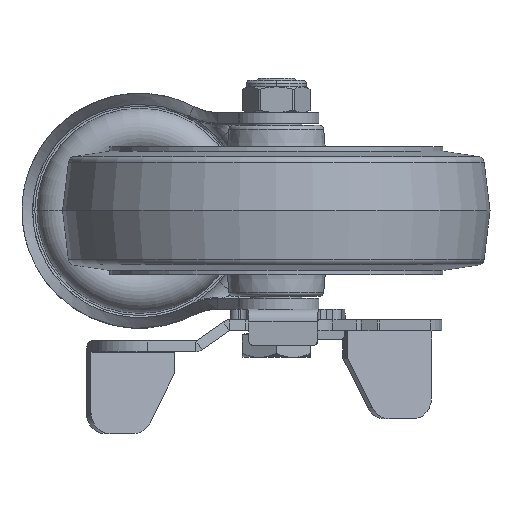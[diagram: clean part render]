
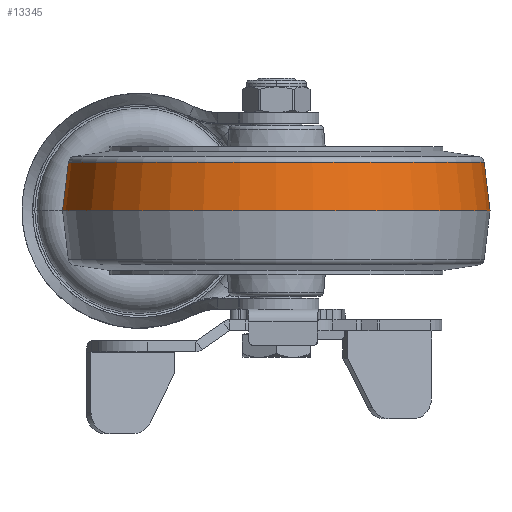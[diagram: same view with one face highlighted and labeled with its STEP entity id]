
A CAD part, front view. The second image highlights one B-rep face of the part: STEP entity #13345.
In plain terms, the highlighted conical face has half-angle 6.843 degrees and reference radius 49.318 mm.
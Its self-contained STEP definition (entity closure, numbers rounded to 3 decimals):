
#12990=CARTESIAN_POINT('',(-11.365,0.,0.));
#12991=DIRECTION('',(-1.,0.,0.));
#12992=DIRECTION('',(0.,1.,0.));
#12993=AXIS2_PLACEMENT_3D('',#12990,#12991,#12992);
#13005=DIRECTION('',(-0.993,-0.119,0.));
#13006=VECTOR('',#13005,11.446);
#13007=CARTESIAN_POINT('',(0.,50.,0.));
#13008=LINE('',#13007,#13006);
#13009=DIRECTION('',(-0.993,0.119,0.));
#13010=VECTOR('',#13009,11.446);
#13011=CARTESIAN_POINT('',(0.,-50.,0.));
#13012=LINE('',#13011,#13010);
#13013=CARTESIAN_POINT('',(0.,0.,0.));
#13014=DIRECTION('',(-1.,0.,0.));
#13015=DIRECTION('',(0.,1.,0.));
#13016=AXIS2_PLACEMENT_3D('',#13013,#13014,#13015);
#13018=CARTESIAN_POINT('',(0.,50.,0.));
#13019=CARTESIAN_POINT('',(-11.365,48.636,0.));
#13020=VERTEX_POINT('',#13018);
#13021=VERTEX_POINT('',#13019);
#13040=CARTESIAN_POINT('',(0.,-50.,0.));
#13041=CARTESIAN_POINT('',(-11.365,-48.636,0.));
#13042=VERTEX_POINT('',#13040);
#13043=VERTEX_POINT('',#13041);
#13334=CARTESIAN_POINT('',(-5.682,0.,0.));
#13335=DIRECTION('',(1.,0.,0.));
#13336=DIRECTION('',(0.,-1.,0.));
#13337=AXIS2_PLACEMENT_3D('',#13334,#13335,#13336);
#13338=CONICAL_SURFACE('',#13337,49.318,6.843);
#13339=ORIENTED_EDGE('',*,*,#13325,.T.);
#13340=ORIENTED_EDGE('',*,*,#13302,.T.);
#13341=ORIENTED_EDGE('',*,*,#13328,.F.);
#13342=ORIENTED_EDGE('',*,*,#13069,.F.);
#13343=EDGE_LOOP('',(#13339,#13340,#13341,#13342));
#13344=FACE_OUTER_BOUND('',#13343,.F.);
#12994=CIRCLE('',#12993,48.636);
#13017=CIRCLE('',#13016,50.);
#13069=EDGE_CURVE('',#13020,#13042,#13017,.T.);
#13302=EDGE_CURVE('',#13021,#13043,#12994,.T.);
#13325=EDGE_CURVE('',#13020,#13021,#13008,.T.);
#13328=EDGE_CURVE('',#13042,#13043,#13012,.T.);
#13345=ADVANCED_FACE('',(#13344),#13338,.T.);
